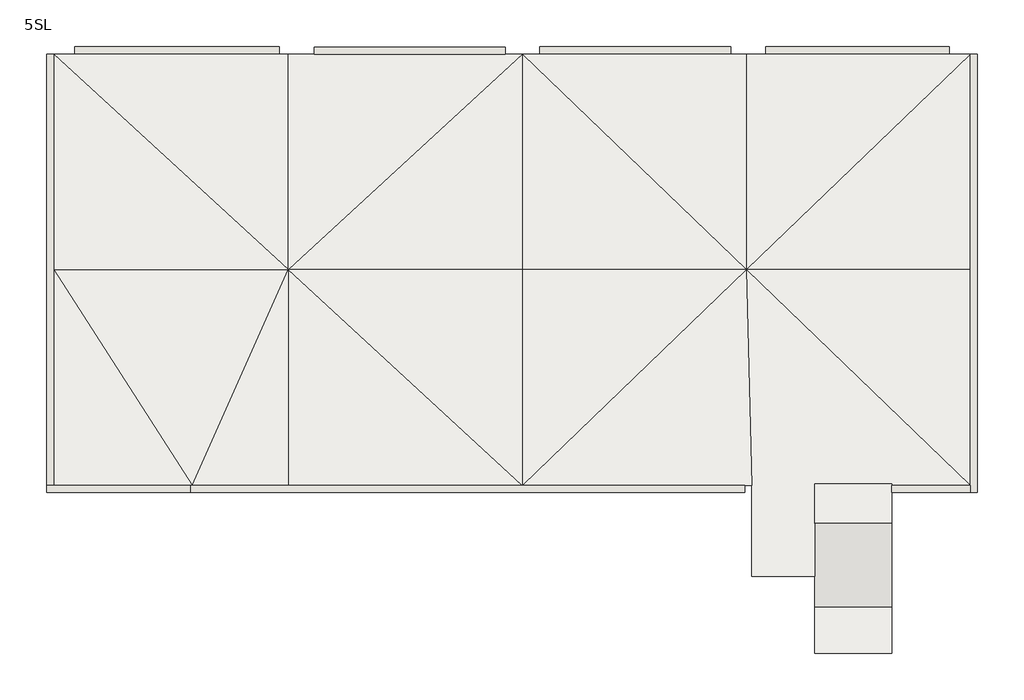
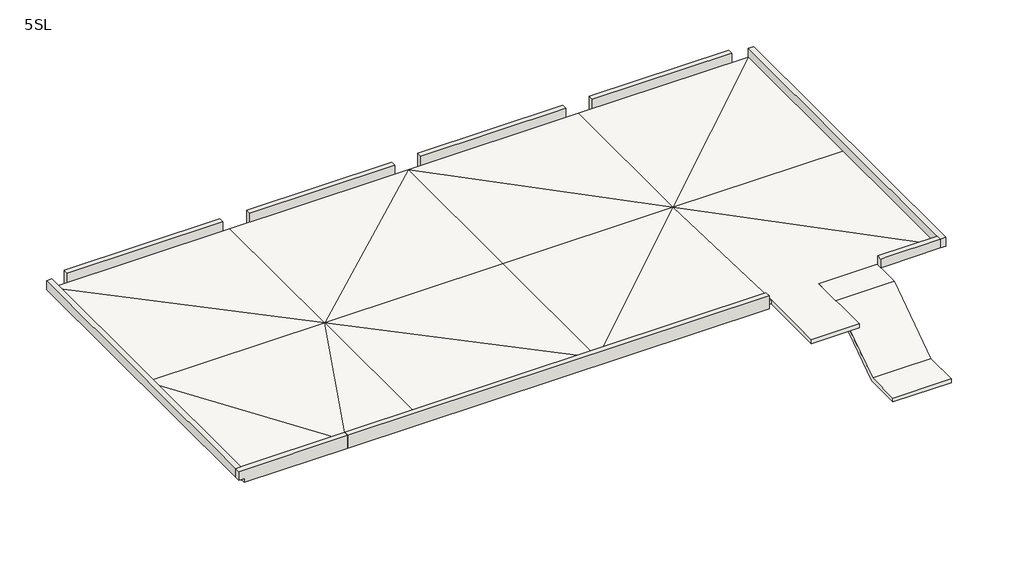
# One storey: 9 walls, 2 slabs.
"""IFC4 building model written with IfcOpenShell, lengths in millimetres."""

from ifc_helpers import new_model, si_unit, frame, origin, place, context, project, spatial, polyline, outline, extrude, faceted_brep, transform, mapped, element, save
from components import slab_83912922

model = new_model("IFC4")

# Units and contexts
model_context = context("Model", 3, world=origin())
ifc_project = project(units=[si_unit("LENGTHUNIT", "METRE", prefix="MILLI")], contexts=[model_context])

# Site, building, storey
site = spatial("IfcSite", under=ifc_project)
building = spatial("IfcBuilding", under=site)
storey = spatial("IfcBuildingStorey", under=building, Name="5SL", Elevation=13000.0)

# Slabs
placement = place(None, origin())
element("IfcSlab", 1, ObjectType="SCON150", at=placement, inside=storey, context=model_context, shape_type="Brep", body=[
    faceted_brep([(15704.3805905, -2259.7401342, 12850.0), (15704.3805905, -2259.7401342, 13000.0), (11254.3805905, -2259.7401342, 13000.0), (11254.3805905, -2259.7401342, 12850.0), (11254.3805905, -4869.7401342, 13000.0), (11254.3805905, -4869.7401342, 12850.0), (9454.3805905, -4869.7401342, 13000.0), (9454.3805905, -4869.7401342, 12850.0), (9454.3805905, -2259.7401342, 13000.0), (9454.3805905, -2259.7401342, 12850.0), (2904.3805905, -2259.7401342, 13000.0), (-3795.6194095, -2259.7401342, 13000.0), (-6538.1672827, -2259.7401342, 13000.0), (-10495.6194095, -2259.7401342, 13000.0), (-10495.6194095, -2259.7401342, 12850.0), (-6538.1672827, -2259.7401342, 12850.0), (-3795.6194095, -2259.7401342, 12850.0), (2904.3805905, -2259.7401342, 12850.0), (-10495.6194095, 3900.1232433, 13000.0), (-10495.6194095, 10059.9866207, 13000.0), (-10495.6194095, 10059.9866207, 12850.0), (-10495.6194095, 3900.1232433, 12850.0), (-3795.6194095, 10059.9866207, 13000.0), (2904.3805905, 10059.9866207, 13000.0), (9304.3805905, 10059.9866207, 13000.0), (15704.3805905, 10059.9866207, 13000.0), (15704.3805905, 10059.9866207, 12850.0), (9304.3805905, 10059.9866207, 12850.0), (2904.3805905, 10059.9866207, 12850.0), (-3795.6194095, 10059.9866207, 12850.0), (15704.3805905, 3900.1232433, 13000.0), (15704.3805905, 3900.1232433, 12850.0), (-3795.6194095, 3900.1232433, 13000.0), (2904.3805905, 3900.1232433, 13000.0), (9304.3805905, 3900.1232433, 13000.0), (-3795.6194095, 3900.1232433, 12850.0), (2904.3805905, 3900.1232433, 12850.0), (9304.3805905, 3900.1232433, 12850.0)], [[[0, 1, 2, 3]], [[3, 2, 4, 5]], [[5, 4, 6, 7]], [[7, 6, 8, 9]], [[9, 8, 10, 11, 12, 13, 14, 15, 16, 17]], [[14, 13, 18, 19, 20, 21]], [[20, 19, 22, 23, 24, 25, 26, 27, 28, 29]], [[26, 25, 30, 1, 0, 31]], [[13, 12, 18]], [[32, 12, 11]], [[32, 10, 33]], [[19, 18, 32]], [[32, 23, 22]], [[32, 11, 10]], [[32, 33, 23]], [[19, 32, 22]], [[18, 12, 32]], [[34, 33, 10]], [[8, 34, 10]], [[8, 6, 4, 2, 1, 34]], [[1, 30, 34]], [[34, 23, 33]], [[34, 24, 23]], [[25, 24, 34]], [[25, 34, 30]], [[14, 21, 15]], [[35, 16, 15]], [[35, 36, 17]], [[20, 35, 21]], [[35, 29, 28]], [[35, 17, 16]], [[35, 28, 36]], [[20, 29, 35]], [[21, 35, 15]], [[37, 17, 36]], [[9, 17, 37]], [[9, 37, 0, 3, 5, 7]], [[0, 37, 31]], [[37, 36, 28]], [[37, 28, 27]], [[26, 37, 27]], [[26, 31, 37]]]),
])
slab_shape = slab_83912922(model_context)
element("IfcSlab", 2, ObjectType="階段室屋根 : 階段室屋根", at=placement, inside=storey, context=model_context, shape_type="MappedRepresentation", body=[
    mapped(slab_shape, transform((0.0, 0.0, 0.0), x_axis=(1.0, 0.0, 0.0), y_axis=(0.0, 1.0, 0.0), z_axis=(0.0, 0.0, 1.0))),
])

# Walls
element("IfcWall", 3, ObjectType="(R)200", at=placement, inside=storey, context=model_context, shape_type="Brep", body=[
    faceted_brep([(15704.3805905, 10059.9866207, 13000.0), (15704.3805905, -2259.7401342, 13000.0), (15704.3805905, -2419.7401342, 13000.0), (15704.3805905, -2459.7401342, 13000.0), (15704.3805905, -2459.7401342, 13350.0), (15704.3805905, -2259.7401342, 13350.0), (15704.3805905, 10059.9866207, 13350.0), (15904.3805905, 10059.9866207, 13000.0), (15904.3805905, 10059.9866207, 13350.0), (15904.3805905, -2459.7401342, 13350.0), (15904.3805905, -2459.7401342, 13000.0), (15904.3805905, -2419.7401342, 13000.0)], [[[0, 1, 2, 3, 4, 5, 6]], [[7, 8, 9, 10, 11]], [[3, 2, 1, 0, 7, 11, 10]], [[6, 5, 4, 9, 8]], [[4, 3, 10, 9]], [[0, 6, 8, 7]]]),
])
element("IfcWall", 4, ObjectType="(R)200", at=placement, inside=storey, context=model_context, shape_type="SweptSolid", body=[
    extrude(outline(polyline([(-10495.6194095, 10059.9866207), (-10495.6194095, -2259.7401342), (-10695.6194095, -2259.7401342), (-10695.6194095, 10059.9866207), (-10495.6194095, 10059.9866207)])), frame((0.0, 0.0, 13000.0), z_axis=(0.0, 0.0, 1.0), x_axis=(1.0, 0.0, 0.0)), (0.0, 0.0, 1.0), 350.0),
])
element("IfcWall", 5, ObjectType="(R)200", at=placement, inside=storey, context=model_context, shape_type="SweptSolid", body=[
    extrude(outline(polyline([(-6595.6194095, -2259.7401342), (9254.3805905, -2259.7401342), (9254.3805905, -2459.7401342), (-6595.6194095, -2459.7401342), (-6595.6194095, -2259.7401342)])), frame((0.0, 0.0, 12850.0), z_axis=(0.0, 0.0, 1.0), x_axis=(1.0, 0.0, 0.0)), (0.0, 0.0, 1.0), 500.0),
])
element("IfcWall", 6, ObjectType="(R)200", at=placement, inside=storey, context=model_context, shape_type="SweptSolid", body=[
    extrude(outline(polyline([(-4045.6194095, 10084.9866207), (-9895.6194095, 10084.9866207), (-9895.6194095, 10284.9866207), (-4045.6194095, 10284.9866207), (-4045.6194095, 10084.9866207)])), frame((0.0, 0.0, 12250.0), z_axis=(0.0, 0.0, 1.0), x_axis=(1.0, 0.0, 0.0)), (0.0, 0.0, 1.0), 1100.0),
])
element("IfcWall", 7, ObjectType="(R)200", at=placement, inside=storey, context=model_context, shape_type="SweptSolid", body=[
    extrude(outline(polyline([(15104.3805905, 10084.9866207), (9854.3805905, 10084.9866207), (9854.3805905, 10284.9866207), (15104.3805905, 10284.9866207), (15104.3805905, 10084.9866207)])), frame((0.0, 0.0, 12250.0), z_axis=(0.0, 0.0, 1.0), x_axis=(1.0, 0.0, 0.0)), (0.0, 0.0, 1.0), 1100.0),
])
element("IfcWall", 8, ObjectType="(R)200", at=placement, inside=storey, context=model_context, shape_type="SweptSolid", body=[
    extrude(outline(polyline([(2404.3805905, 10059.9866207), (-3045.6194095, 10059.9866207), (-3045.6194095, 10259.9866207), (2404.3805905, 10259.9866207), (2404.3805905, 10059.9866207)])), frame((0.0, 0.0, 12250.0), z_axis=(0.0, 0.0, 1.0), x_axis=(1.0, 0.0, 0.0)), (0.0, 0.0, 1.0), 1100.0),
])
element("IfcWall", 9, ObjectType="(R)200", at=placement, inside=storey, context=model_context, shape_type="SweptSolid", body=[
    extrude(outline(polyline([(8854.3805905, 10084.9866207), (3404.3805905, 10084.9866207), (3404.3805905, 10284.9866207), (8854.3805905, 10284.9866207), (8854.3805905, 10084.9866207)])), frame((0.0, 0.0, 12250.0), z_axis=(0.0, 0.0, 1.0), x_axis=(1.0, 0.0, 0.0)), (0.0, 0.0, 1.0), 1100.0),
])
element("IfcWall", 10, ObjectType="(R)200", at=placement, inside=storey, context=model_context, shape_type="Brep", body=[
    faceted_brep([(15704.3805905, -2259.7401342, 13000.0), (13454.3805905, -2259.7401342, 13000.0), (13454.3805905, -2259.7401342, 13350.0), (15704.3805905, -2259.7401342, 13350.0), (15704.3805905, -2459.7401342, 13000.0), (15704.3805905, -2459.7401342, 13350.0), (13654.3805905, -2459.7401342, 13350.0), (13454.3805905, -2459.7401342, 13350.0), (13454.3805905, -2459.7401342, 13000.0), (13654.3805905, -2459.7401342, 13000.0), (13454.3805905, -2359.7401342, 13000.0)], [[[0, 1, 2, 3]], [[4, 5, 6, 7, 8, 9]], [[1, 0, 4, 9, 8, 10]], [[3, 2, 7, 6, 5]], [[2, 1, 10, 8, 7]], [[0, 3, 5, 4]]]),
])
element("IfcWall", 11, ObjectType="(R)200", at=placement, inside=storey, context=model_context, shape_type="Brep", body=[
    faceted_brep([(-6595.6194095, -2259.7401342, 12850.0), (-10495.6194095, -2259.7401342, 12850.0), (-10495.6194095, -2259.7401342, 13000.0), (-10695.6194095, -2259.7401342, 13000.0), (-10695.6194095, -2259.7401342, 13350.0), (-10495.6194095, -2259.7401342, 13350.0), (-6595.6194095, -2259.7401342, 13350.0), (-6595.6194095, -2459.7401342, 12850.0), (-6595.6194095, -2459.7401342, 13350.0), (-10695.6194095, -2459.7401342, 13350.0), (-10695.6194095, -2459.7401342, 13000.0), (-10495.6194095, -2459.7401342, 13000.0), (-10495.6194095, -2459.7401342, 12850.0)], [[[0, 1, 2, 3, 4, 5, 6]], [[7, 8, 9, 10, 11, 12]], [[1, 0, 7, 12]], [[6, 5, 4, 9, 8]], [[0, 6, 8, 7]], [[10, 3, 2, 11]], [[2, 1, 12, 11]], [[4, 3, 10, 9]]]),
])

save(model, "model.ifc")
